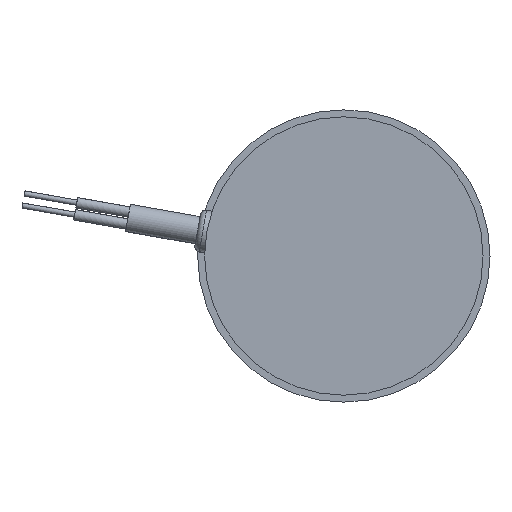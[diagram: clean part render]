
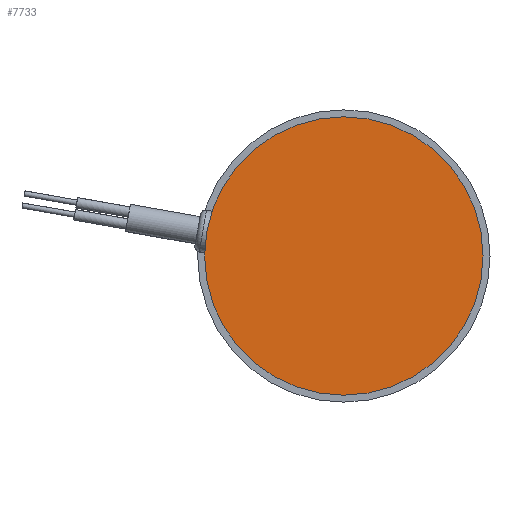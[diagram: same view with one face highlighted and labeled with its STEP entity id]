
A CAD part, left-side view. The second image highlights one B-rep face of the part: STEP entity #7733.
In plain terms, the highlighted planar face has unit normal (-1, 0, 0).
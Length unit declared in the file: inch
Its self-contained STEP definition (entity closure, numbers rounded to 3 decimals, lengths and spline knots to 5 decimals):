
#5 = CARTESIAN_POINT ( 'NONE',  ( -6.12864, -0.85937, 0.2217 ) ) ;
#570 = DIRECTION ( 'NONE',  ( 0., 1., 0. ) ) ;
#1842 = EDGE_CURVE ( 'NONE', #8221, #3569, #3897, .T. ) ;
#2054 = ORIENTED_EDGE ( 'NONE', *, *, #5266, .F. ) ;
#2536 = EDGE_LOOP ( 'NONE', ( #2054, #6595 ) ) ;
#2538 = AXIS2_PLACEMENT_3D ( 'NONE', #4257, #4915, #6824 ) ;
#3509 = DIRECTION ( 'NONE',  ( 1., 0., 0. ) ) ;
#3569 = VERTEX_POINT ( 'NONE', #5 ) ;
#3897 = CIRCLE ( 'NONE', #2538, 0.7874 ) ;
#4257 = CARTESIAN_POINT ( 'NONE',  ( -6.12864, -0.07197, 0.2217 ) ) ;
#4915 = DIRECTION ( 'NONE',  ( 1., 0., 0. ) ) ;
#5266 = EDGE_CURVE ( 'NONE', #3569, #8221, #7021, .T. ) ;
#5269 = AXIS2_PLACEMENT_3D ( 'NONE', #6032, #3509, #7925 ) ;
#5595 = CARTESIAN_POINT ( 'NONE',  ( -6.12864, -0.07197, 0.2217 ) ) ;
#6032 = CARTESIAN_POINT ( 'NONE',  ( -6.12864, -0.07197, 0.2217 ) ) ;
#6265 = AXIS2_PLACEMENT_3D ( 'NONE', #5595, #6863, #570 ) ;
#6595 = ORIENTED_EDGE ( 'NONE', *, *, #1842, .F. ) ;
#6824 = DIRECTION ( 'NONE',  ( 0., 1., 0. ) ) ;
#6863 = DIRECTION ( 'NONE',  ( 1., 0., 0. ) ) ;
#7021 = CIRCLE ( 'NONE', #5269, 0.7874 ) ;
#7733 = ADVANCED_FACE ( 'NONE', ( #8279 ), #8268, .F. ) ;
#7925 = DIRECTION ( 'NONE',  ( 0., 1., 0. ) ) ;
#8196 = CARTESIAN_POINT ( 'NONE',  ( -6.12864, 0.71543, 0.2217 ) ) ;
#8221 = VERTEX_POINT ( 'NONE', #8196 ) ;
#8268 = PLANE ( 'NONE',  #6265 ) ;
#8279 = FACE_OUTER_BOUND ( 'NONE', #2536, .T. ) ;
